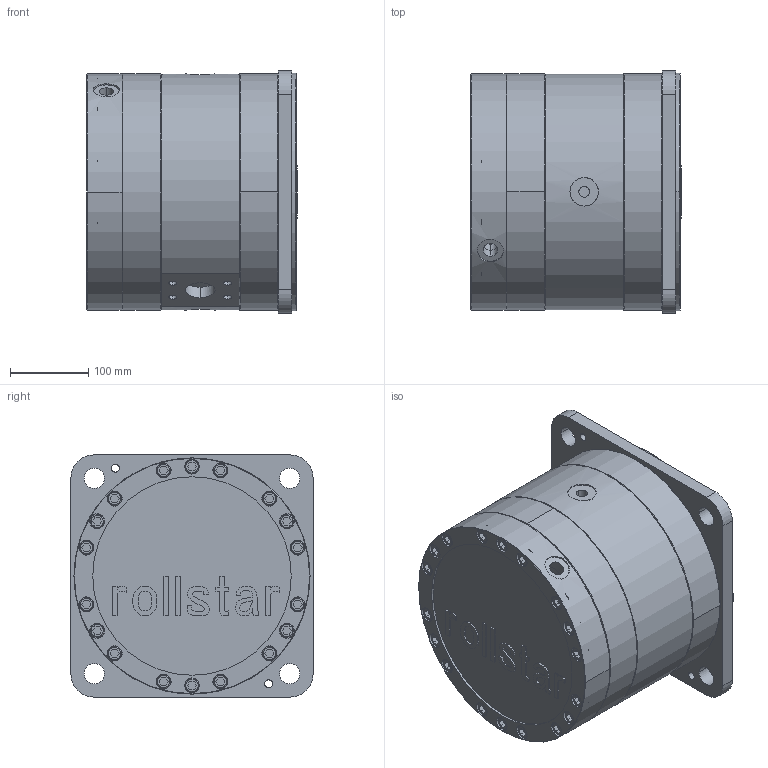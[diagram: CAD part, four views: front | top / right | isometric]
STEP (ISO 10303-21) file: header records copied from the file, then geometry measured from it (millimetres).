
FILE_DESCRIPTION(('Creo Elements/Direct Modeling STEP Export'),'2;1');
FILE_NAME('M201 radial.stp','2017-07-10T14:51:06',(''),(''),'PTC Creo Elements/Direct Modeling STEP processor for AP214 (Solid Model)','PTC Creo Elements/Direct Modeling 19.0C 15-Aug-2015 (C) Parametric Technology GmbH','');
FILE_SCHEMA(('AUTOMOTIVE_DESIGN { 1 0 10303 214 1 1 1 1 }'));
Length unit declared in the file: millimetre
Products named in the file (2): M201
Assembly tree (1 placements, depth 2):
  M201
    M201
Bounding box: 269 x 310 x 310 mm (x, y, z)
Volume: 18904682.9 mm3; surface area: 625589.6 mm2
Topology: 1 solids, 37 shells, 1271 faces, 3061 edges, 2007 vertices
Faces by surface type: plane 708, cylinder 421, cone 84, extrusion 46, torus 12
Entity records: 48557 total; most frequent: CARTESIAN_POINT 16999, ORIENTED_EDGE 6122, DIRECTION 5206, EDGE_CURVE 3061, VERTEX_POINT 2007, VECTOR 1938, LINE 1892, AXIS2_PLACEMENT_3D 1634
